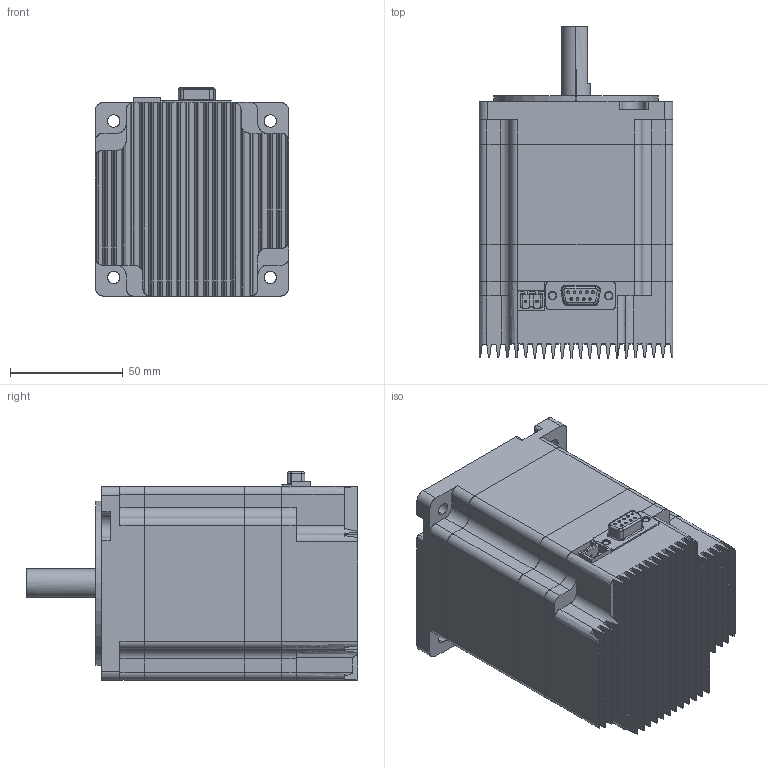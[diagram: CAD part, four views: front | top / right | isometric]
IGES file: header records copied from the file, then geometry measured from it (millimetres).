
Start section: SolidWorks IGES file using analytic representation for surfaces
Global section: file name: C:\Users\Christine\Documents\Arcus\DMX-K-DRV-34\DMX-K-DRV-34-2 Rev.IGS; native system: SolidWorks 2008; preprocessor: SolidWorks 2008; author: Christine; date: 130419.212002; units: millimetre
Bounding box: 85.95 x 147.32 x 92.39 mm (x, y, z)
Surface area: 114008.5 mm2 (no closed solid volume)
Topology: 0 solids, 0 shells, 631 faces, 6477 edges, 6477 vertices
Faces by surface type: bspline 389, revolution 242
